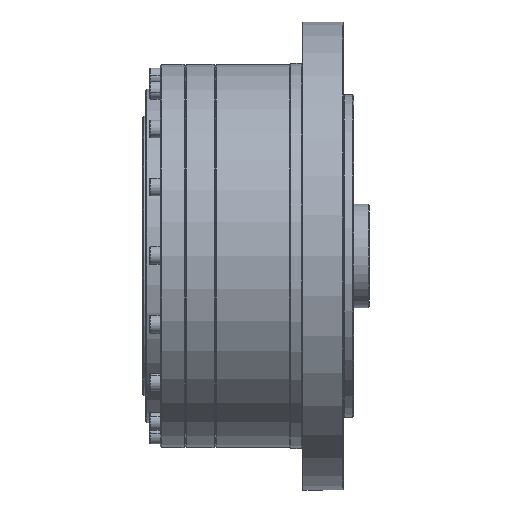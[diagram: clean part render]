
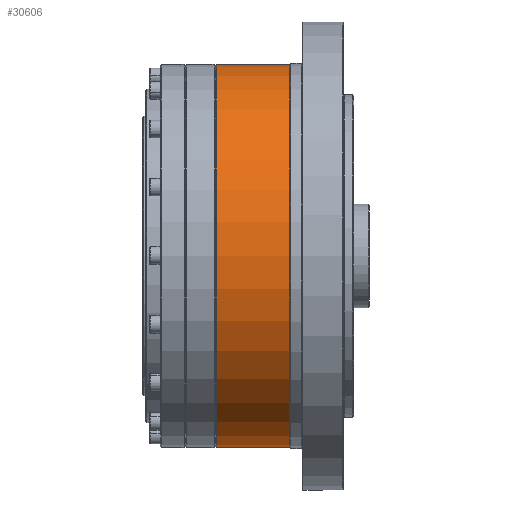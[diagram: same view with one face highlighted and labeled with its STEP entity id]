
A CAD part, top view. The second image highlights one B-rep face of the part: STEP entity #30606.
In plain terms, the highlighted cylindrical face has radius 92.5 mm (diameter 185 mm), a partial arc.
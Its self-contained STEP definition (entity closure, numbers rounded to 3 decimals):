
#1195 = DIRECTION ( 'NONE',  ( 1., 0., 0. ) ) ;
#1392 = CYLINDRICAL_SURFACE ( 'NONE', #29688, 92.5 ) ;
#1766 = LINE ( 'NONE', #22743, #18674 ) ;
#3413 = DIRECTION ( 'NONE',  ( 1., 0., 0. ) ) ;
#4385 = ORIENTED_EDGE ( 'NONE', *, *, #29645, .F. ) ;
#4533 = AXIS2_PLACEMENT_3D ( 'NONE', #25478, #9299, #28195 ) ;
#4830 = DIRECTION ( 'NONE',  ( 1., 0., 0. ) ) ;
#5430 = CIRCLE ( 'NONE', #4533, 92.5 ) ;
#7319 = VECTOR ( 'NONE', #1195, 1000. ) ;
#9299 = DIRECTION ( 'NONE',  ( 1., 0., 0. ) ) ;
#9918 = EDGE_CURVE ( 'NONE', #27193, #32777, #14488, .T. ) ;
#11905 = VERTEX_POINT ( 'NONE', #20628 ) ;
#14488 = LINE ( 'NONE', #28146, #7319 ) ;
#14598 = DIRECTION ( 'NONE',  ( 1., 0., 0. ) ) ;
#15795 = FACE_OUTER_BOUND ( 'NONE', #23072, .T. ) ;
#16685 = CIRCLE ( 'NONE', #27610, 92.5 ) ;
#18391 = EDGE_CURVE ( 'NONE', #11905, #28523, #1766, .T. ) ;
#18674 = VECTOR ( 'NONE', #14598, 1000. ) ;
#19576 = CARTESIAN_POINT ( 'NONE',  ( 42., -92.5, 0. ) ) ;
#19608 = CARTESIAN_POINT ( 'NONE',  ( 42., 0., 0. ) ) ;
#20264 = EDGE_CURVE ( 'NONE', #27193, #11905, #5430, .T. ) ;
#20436 = CARTESIAN_POINT ( 'NONE',  ( 6.5, 92.5, 0. ) ) ;
#20628 = CARTESIAN_POINT ( 'NONE',  ( 6.5, -92.5, 0. ) ) ;
#22327 = DIRECTION ( 'NONE',  ( 0., 1., 0. ) ) ;
#22743 = CARTESIAN_POINT ( 'NONE',  ( 17.8, -92.5, 0. ) ) ;
#23072 = EDGE_LOOP ( 'NONE', ( #28322, #34138, #4385, #29224 ) ) ;
#25478 = CARTESIAN_POINT ( 'NONE',  ( 6.5, 0., 0. ) ) ;
#27193 = VERTEX_POINT ( 'NONE', #20436 ) ;
#27610 = AXIS2_PLACEMENT_3D ( 'NONE', #19608, #3413, #22327 ) ;
#28146 = CARTESIAN_POINT ( 'NONE',  ( 17.8, 92.5, 0. ) ) ;
#28195 = DIRECTION ( 'NONE',  ( 0., 1., 0. ) ) ;
#28322 = ORIENTED_EDGE ( 'NONE', *, *, #20264, .T. ) ;
#28523 = VERTEX_POINT ( 'NONE', #19576 ) ;
#29043 = DIRECTION ( 'NONE',  ( 0., 1., 0. ) ) ;
#29224 = ORIENTED_EDGE ( 'NONE', *, *, #9918, .F. ) ;
#29645 = EDGE_CURVE ( 'NONE', #32777, #28523, #16685, .T. ) ;
#29688 = AXIS2_PLACEMENT_3D ( 'NONE', #31777, #4830, #29043 ) ;
#29930 = CARTESIAN_POINT ( 'NONE',  ( 42., 92.5, 0. ) ) ;
#30606 = ADVANCED_FACE ( 'NONE', ( #15795 ), #1392, .T. ) ;
#31777 = CARTESIAN_POINT ( 'NONE',  ( 17.8, 0., 0. ) ) ;
#32777 = VERTEX_POINT ( 'NONE', #29930 ) ;
#34138 = ORIENTED_EDGE ( 'NONE', *, *, #18391, .T. ) ;
